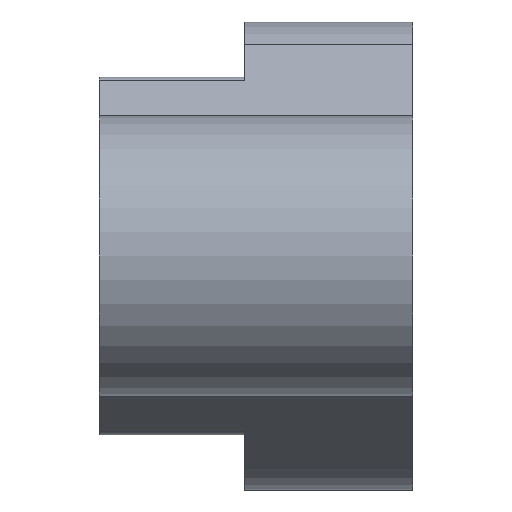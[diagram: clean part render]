
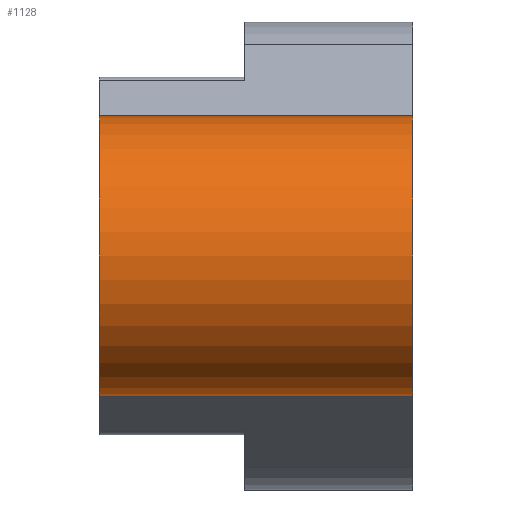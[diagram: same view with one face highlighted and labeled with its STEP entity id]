
A CAD part, left-side view. The second image highlights one B-rep face of the part: STEP entity #1128.
In plain terms, the highlighted cylindrical face has radius 5 mm (diameter 10 mm), a partial arc.
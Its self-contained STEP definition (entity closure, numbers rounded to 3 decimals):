
#30=CYLINDRICAL_SURFACE('',#1242,5.);
#130=FACE_OUTER_BOUND('',#192,.T.);
#192=EDGE_LOOP('',(#1047,#1048,#1049,#1050));
#305=LINE('',#1880,#409);
#317=LINE('',#1916,#421);
#409=VECTOR('',#1492,10.);
#421=VECTOR('',#1544,10.);
#452=CIRCLE('',#1208,5.);
#460=CIRCLE('',#1218,5.);
#545=VERTEX_POINT('',#1814);
#546=VERTEX_POINT('',#1816);
#564=VERTEX_POINT('',#1858);
#565=VERTEX_POINT('',#1860);
#687=EDGE_CURVE('',#545,#546,#452,.T.);
#710=EDGE_CURVE('',#564,#565,#460,.T.);
#721=EDGE_CURVE('',#564,#546,#305,.T.);
#737=EDGE_CURVE('',#565,#545,#317,.T.);
#1047=ORIENTED_EDGE('',*,*,#721,.T.);
#1048=ORIENTED_EDGE('',*,*,#687,.F.);
#1049=ORIENTED_EDGE('',*,*,#737,.F.);
#1050=ORIENTED_EDGE('',*,*,#710,.F.);
#1128=ADVANCED_FACE('',(#130),#30,.T.);
#1208=AXIS2_PLACEMENT_3D('',#1817,#1438,#1439);
#1218=AXIS2_PLACEMENT_3D('',#1861,#1473,#1474);
#1242=AXIS2_PLACEMENT_3D('',#1915,#1542,#1543);
#1438=DIRECTION('center_axis',(0.,-1.,0.));
#1439=DIRECTION('ref_axis',(0.,0.,
1.));
#1473=DIRECTION('center_axis',(0.,1.,0.));
#1474=DIRECTION('ref_axis',(0.,0.,-1.));
#1492=DIRECTION('',(0.,-1.,0.));
#1542=DIRECTION('center_axis',(0.,-1.,0.));
#1543=DIRECTION('ref_axis',(-1.,0.,0.));
#1544=DIRECTION('',(0.,-1.,0.));
#1814=CARTESIAN_POINT('',(-20.901,17.049,156.35));
#1816=CARTESIAN_POINT('',(-20.901,17.049,146.35));
#1817=CARTESIAN_POINT('Origin',(-20.901,17.049,151.35));
#1858=CARTESIAN_POINT('',(-20.901,28.249,146.35));
#1860=CARTESIAN_POINT('',(-20.901,28.249,156.35));
#1861=CARTESIAN_POINT('Origin',(-20.901,28.249,151.35));
#1880=CARTESIAN_POINT('',(-20.901,23.049,146.35));
#1915=CARTESIAN_POINT('Origin',(-20.901,23.049,151.35));
#1916=CARTESIAN_POINT('',(-20.901,23.049,156.35));
